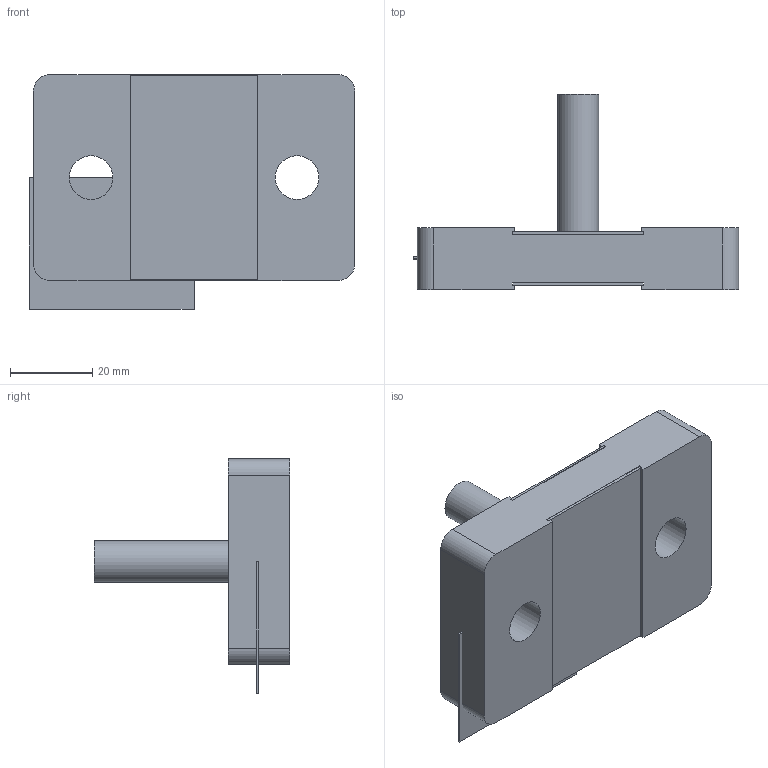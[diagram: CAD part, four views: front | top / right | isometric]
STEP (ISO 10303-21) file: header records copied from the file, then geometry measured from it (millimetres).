
FILE_DESCRIPTION(/* description */ ('Alibre Inc.'),/* implementation_level */ '2;1');
FILE_NAME(/* name */ 'export0',/* time_stamp */ '2010-11-01T15:37:16+01:00',/* author */ (''),/* organization */ (''),/* preprocessor_version */ 'ST-DEVELOPER v10',/* originating_system */ 'Alibre',/* authorisation */ '');
FILE_SCHEMA (('ALIBRE_SCHEMA','CONFIG_CONTROL_DESIGN'));
Length unit declared in the file: centimetre
Products named in the file (4): ID_1
Bounding box: 79 x 47.5 x 57 mm (x, y, z)
Volume: 54594.9 mm3; surface area: 17294.6 mm2
Topology: 3 solids, 3 shells, 53 faces, 144 edges, 92 vertices
Faces by surface type: plane 43, cylinder 9, torus 1
Full cylindrical faces by diameter (mm): 6 x1, 10 x2, 10.6 x2
Entity records: 5299 total; most frequent: CARTESIAN_POINT 584, DIRECTION 381, ORIENTED_EDGE 276, PERSISTANTTOPOLOGYATTRIBUTE 240, VECTOR 231, CONSTRAINTPAIRUV 229, REFERENCEDEPENDENTUV 213, LINE 164
